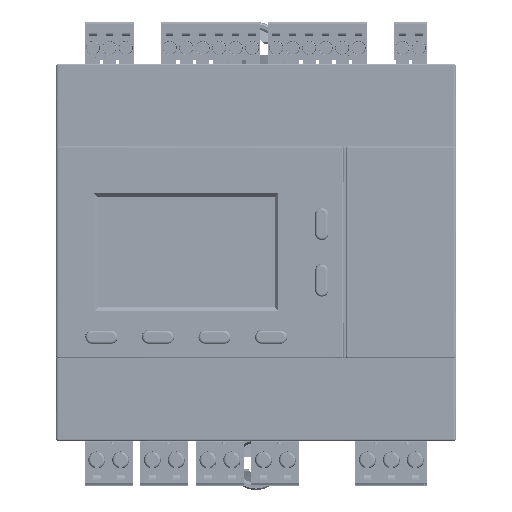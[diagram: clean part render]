
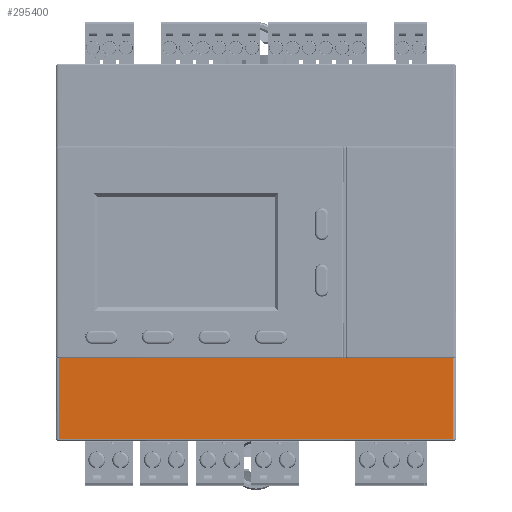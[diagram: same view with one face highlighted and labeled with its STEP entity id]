
A CAD part, top view. The second image highlights one B-rep face of the part: STEP entity #295400.
In plain terms, the highlighted planar face has unit normal (0, 0, 1).
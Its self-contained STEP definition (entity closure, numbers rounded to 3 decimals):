
#2930 = EDGE_CURVE ( 'NONE', #8746, #206963, #162629, .T. ) ;
#3213 = EDGE_CURVE ( 'NONE', #206963, #152322, #110162, .T. ) ;
#3799 = CARTESIAN_POINT ( 'NONE',  ( -2304.614, -225.192, 47.44 ) ) ;
#8746 = VERTEX_POINT ( 'NONE', #3799 ) ;
#10895 = DIRECTION ( 'NONE',  ( 1., 0., 0. ) ) ;
#11502 = EDGE_CURVE ( 'NONE', #155992, #309280, #108871, .T. ) ;
#12873 = CARTESIAN_POINT ( 'NONE',  ( -2285.974, -207.992, 47.44 ) ) ;
#13239 = EDGE_CURVE ( 'NONE', #26492, #155992, #213917, .T. ) ;
#13580 = CARTESIAN_POINT ( 'NONE',  ( -2249.964, -221.992, 47.44 ) ) ;
#14224 = CARTESIAN_POINT ( 'NONE',  ( -2285.974, -225.192, 47.44 ) ) ;
#17354 = CARTESIAN_POINT ( 'NONE',  ( -2403.618, -207.992, 47.44 ) ) ;
#17395 = VERTEX_POINT ( 'NONE', #91593 ) ;
#18285 = EDGE_CURVE ( 'NONE', #52326, #17395, #306245, .T. ) ;
#26492 = VERTEX_POINT ( 'NONE', #125131 ) ;
#29933 = CARTESIAN_POINT ( 'NONE',  ( -2333.764, -225.192, 47.44 ) ) ;
#32427 = ORIENTED_EDGE ( 'NONE', *, *, #11502, .F. ) ;
#40542 = CARTESIAN_POINT ( 'NONE',  ( -2333.764, -211.992, 47.44 ) ) ;
#51135 = CARTESIAN_POINT ( 'NONE',  ( -2278.345, -225.192, 47.44 ) ) ;
#52246 = B_SPLINE_CURVE_WITH_KNOTS ( 'NONE', 1,
 ( #91200, #209946 ),
 .UNSPECIFIED., .F., .F.,
 ( 2, 2 ),
 ( -18.64, 0. ),
 .UNSPECIFIED. ) ;
#52326 = VERTEX_POINT ( 'NONE', #59960 ) ;
#58119 = CARTESIAN_POINT ( 'NONE',  ( -2325.679, -226.912, 47.44 ) ) ;
#59960 = CARTESIAN_POINT ( 'NONE',  ( -2284.335, -207.992, 47.44 ) ) ;
#60814 = CARTESIAN_POINT ( 'NONE',  ( -2249.964, -225.192, 47.44 ) ) ;
#87997 = CARTESIAN_POINT ( 'NONE',  ( -2333.764, -219.992, 47.44 ) ) ;
#91200 = CARTESIAN_POINT ( 'NONE',  ( -2285.974, -225.192, 47.44 ) ) ;
#91593 = CARTESIAN_POINT ( 'NONE',  ( -2274.335, -207.992, 47.44 ) ) ;
#94323 = EDGE_CURVE ( 'NONE', #52326, #152322, #230092, .T. ) ;
#97101 = CARTESIAN_POINT ( 'NONE',  ( -2323.764, -207.992, 47.44 ) ) ;
#108871 = B_SPLINE_CURVE_WITH_KNOTS ( 'NONE', 1,
 ( #224363, #51135, #14224 ),
 .UNSPECIFIED., .F., .F.,
 ( 2, 1, 2 ),
 ( -45.723, -17.342, -9.713 ),
 .UNSPECIFIED. ) ;
#110162 = B_SPLINE_CURVE_WITH_KNOTS ( 'NONE', 1,
 ( #29933, #87997, #198269, #40542, #114330 ),
 .UNSPECIFIED., .F., .F.,
 ( 2, 1, 1, 1, 2 ),
 ( 0., 5.2, 12.8, 13.2, 17.2 ),
 .UNSPECIFIED. ) ;
#114330 = CARTESIAN_POINT ( 'NONE',  ( -2333.764, -207.992, 47.44 ) ) ;
#125131 = CARTESIAN_POINT ( 'NONE',  ( -2249.964, -207.992, 47.44 ) ) ;
#132853 = CARTESIAN_POINT ( 'NONE',  ( -2304.614, -225.192, 47.44 ) ) ;
#133461 = CARTESIAN_POINT ( 'NONE',  ( -2333.764, -207.992, 47.44 ) ) ;
#133619 = CARTESIAN_POINT ( 'NONE',  ( -2333.764, -207.992, 47.44 ) ) ;
#142138 = FACE_OUTER_BOUND ( 'NONE', #167540, .T. ) ;
#144776 = ORIENTED_EDGE ( 'NONE', *, *, #13239, .F. ) ;
#152322 = VERTEX_POINT ( 'NONE', #133461 ) ;
#155992 = VERTEX_POINT ( 'NONE', #179690 ) ;
#160814 = CARTESIAN_POINT ( 'NONE',  ( -2274.335, -207.992, 47.44 ) ) ;
#162629 = B_SPLINE_CURVE_WITH_KNOTS ( 'NONE', 1,
 ( #132853, #322335, #263978, #174831, #180712 ),
 .UNSPECIFIED., .F., .F.,
 ( 2, 1, 1, 1, 2 ),
 ( -19.15, 0., 2.873, 6.607, 10. ),
 .UNSPECIFIED. ) ;
#163273 = DIRECTION ( 'NONE',  ( 0., 0., 1. ) ) ;
#163676 = ORIENTED_EDGE ( 'NONE', *, *, #3213, .F. ) ;
#167540 = EDGE_LOOP ( 'NONE', ( #198738, #288916, #163676, #198107, #272241, #32427, #144776, #195747 ) ) ;
#174831 = CARTESIAN_POINT ( 'NONE',  ( -2330.37, -225.192, 47.44 ) ) ;
#179690 = CARTESIAN_POINT ( 'NONE',  ( -2249.964, -225.192, 47.44 ) ) ;
#180712 = CARTESIAN_POINT ( 'NONE',  ( -2333.764, -225.192, 47.44 ) ) ;
#191354 = CARTESIAN_POINT ( 'NONE',  ( -2284.335, -207.992, 47.44 ) ) ;
#195747 = ORIENTED_EDGE ( 'NONE', *, *, #263096, .T. ) ;
#198107 = ORIENTED_EDGE ( 'NONE', *, *, #2930, .F. ) ;
#198269 = CARTESIAN_POINT ( 'NONE',  ( -2333.764, -212.392, 47.44 ) ) ;
#198738 = ORIENTED_EDGE ( 'NONE', *, *, #18285, .F. ) ;
#202582 = CARTESIAN_POINT ( 'NONE',  ( -2249.964, -207.992, 47.44 ) ) ;
#206963 = VERTEX_POINT ( 'NONE', #290183 ) ;
#209946 = CARTESIAN_POINT ( 'NONE',  ( -2304.614, -225.192, 47.44 ) ) ;
#213917 = B_SPLINE_CURVE_WITH_KNOTS ( 'NONE', 1,
 ( #202582, #13580, #60814 ),
 .UNSPECIFIED., .F., .F.,
 ( 2, 1, 2 ),
 ( -17.2, -3.2, 0. ),
 .UNSPECIFIED. ) ;
#218591 = CARTESIAN_POINT ( 'NONE',  ( -2249.964, -207.992, 47.44 ) ) ;
#218596 = EDGE_CURVE ( 'NONE', #309280, #8746, #52246, .T. ) ;
#224309 = B_SPLINE_CURVE_WITH_KNOTS ( 'NONE', 1,
 ( #218591, #160814 ),
 .UNSPECIFIED., .F., .F.,
 ( 2, 2 ),
 ( 0., 24.372 ),
 .UNSPECIFIED. ) ;
#224363 = CARTESIAN_POINT ( 'NONE',  ( -2249.964, -225.192, 47.44 ) ) ;
#227437 = DIRECTION ( 'NONE',  ( 1., 0., 0. ) ) ;
#227845 = VECTOR ( 'NONE', #227437, 1000. ) ;
#230092 = B_SPLINE_CURVE_WITH_KNOTS ( 'NONE', 1,
 ( #191354, #12873, #97101, #133619 ),
 .UNSPECIFIED., .F., .F.,
 ( 2, 1, 1, 2 ),
 ( 34.372, 36.01, 73.8, 83.8 ),
 .UNSPECIFIED. ) ;
#263096 = EDGE_CURVE ( 'NONE', #26492, #17395, #224309, .T. ) ;
#263978 = CARTESIAN_POINT ( 'NONE',  ( -2326.636, -225.192, 47.44 ) ) ;
#272241 = ORIENTED_EDGE ( 'NONE', *, *, #218596, .F. ) ;
#288916 = ORIENTED_EDGE ( 'NONE', *, *, #94323, .T. ) ;
#290183 = CARTESIAN_POINT ( 'NONE',  ( -2333.764, -225.192, 47.44 ) ) ;
#294963 = AXIS2_PLACEMENT_3D ( 'NONE', #58119, #163273, #10895 ) ;
#295400 = ADVANCED_FACE ( 'NONE', ( #142138 ), #304951, .T. ) ;
#304951 = PLANE ( 'NONE',  #294963 ) ;
#306245 = LINE ( 'NONE', #17354, #227845 ) ;
#309280 = VERTEX_POINT ( 'NONE', #319760 ) ;
#319760 = CARTESIAN_POINT ( 'NONE',  ( -2285.974, -225.192, 47.44 ) ) ;
#322335 = CARTESIAN_POINT ( 'NONE',  ( -2323.764, -225.192, 47.44 ) ) ;
